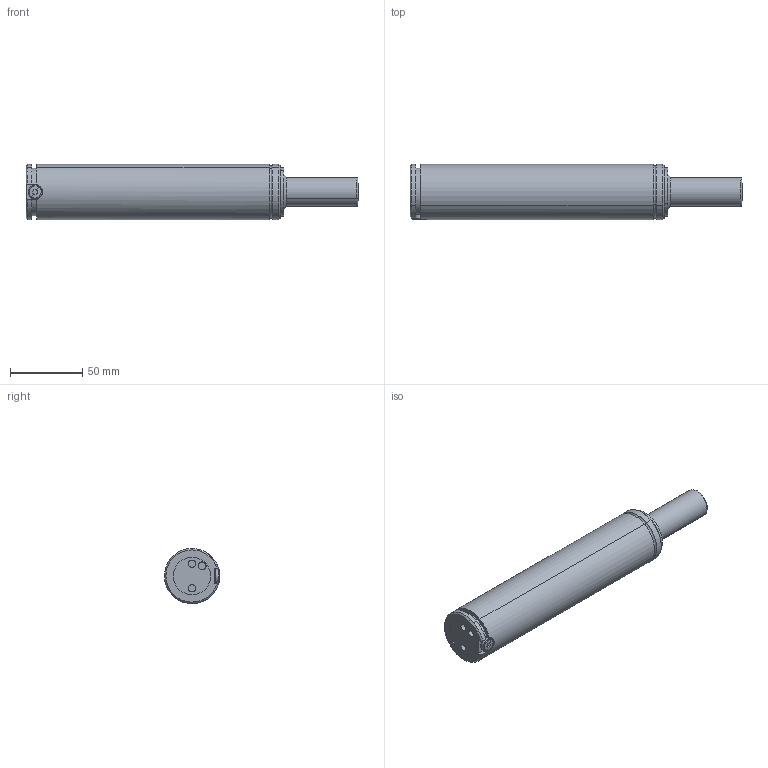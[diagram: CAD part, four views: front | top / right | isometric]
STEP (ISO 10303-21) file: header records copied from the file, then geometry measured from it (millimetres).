
FILE_DESCRIPTION(('CATIA V5 STEP Exchange'),'2;1');
FILE_NAME('W:\CATALOGO GENERAL 2015\CATIA\TPFS1000x25\TPFS 1000x50.stp','2017-11-21T14:06:17+00:00',('none'),('none'),'CATIA Version 5 Release 17 (IN-10)','CATIA V5 STEP AP203','none');
FILE_SCHEMA(('CONFIG_CONTROL_DESIGN'));
Length unit declared in the file: millimetre
Products named in the file (1): TPFS 1000x50
Assembly tree (4 placements, depth 2):
  TPFS 1000x50
    #56
    #1122
    #1312
    #1552
Bounding box: 230 x 38.19 x 38.19 mm (x, y, z)
Volume: 234011.6 mm3; surface area: 33566.7 mm2
Topology: 4 solids, 4 shells, 118 faces, 265 edges, 162 vertices
Faces by surface type: cylinder 31, cone 27, torus 26, plane 26, bspline 8
Entity records: 3389 total; most frequent: CARTESIAN_POINT 886, ORIENTED_EDGE 530, DIRECTION 397, EDGE_CURVE 265, AXIS2_PLACEMENT_3D 230, VERTEX_POINT 162, CIRCLE 143, EDGE_LOOP 127
